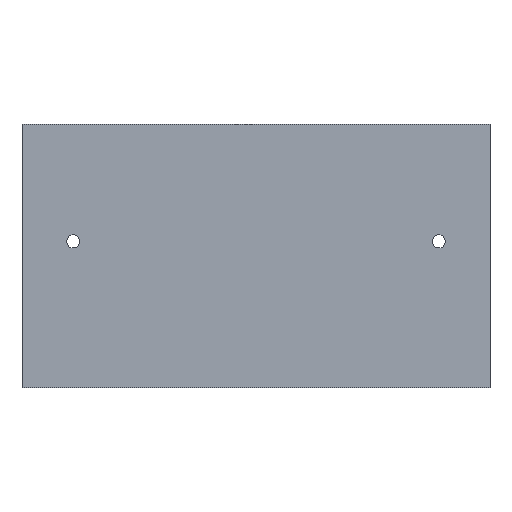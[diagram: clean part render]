
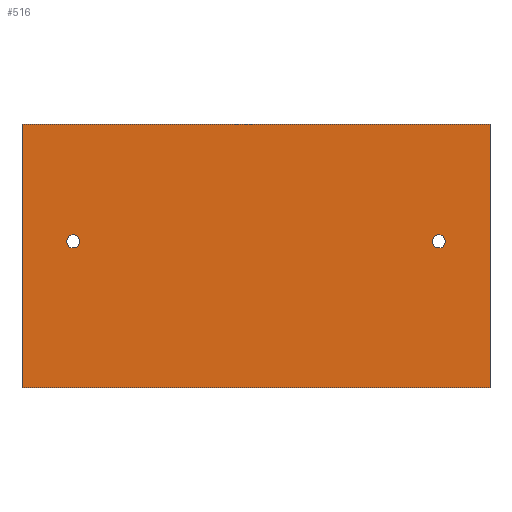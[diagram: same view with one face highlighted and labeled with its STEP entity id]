
A CAD part, top view. The second image highlights one B-rep face of the part: STEP entity #516.
In plain terms, the highlighted planar face has unit normal (0, 0, 1).
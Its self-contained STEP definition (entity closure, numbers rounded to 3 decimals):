
#24 = VERTEX_POINT('',#25);
#25 = CARTESIAN_POINT('',(320.,-180.,35.));
#32 = PLANE('',#33);
#33 = AXIS2_PLACEMENT_3D('',#34,#35,#36);
#34 = CARTESIAN_POINT('',(320.,-180.,0.));
#35 = DIRECTION('',(-0.,1.,-0.));
#36 = DIRECTION('',(1.,0.,0.));
#44 = PLANE('',#45);
#45 = AXIS2_PLACEMENT_3D('',#46,#47,#48);
#46 = CARTESIAN_POINT('',(320.,180.,0.));
#47 = DIRECTION('',(-1.,-0.,-0.));
#48 = DIRECTION('',(0.,1.,0.));
#56 = EDGE_CURVE('',#24,#57,#59,.T.);
#57 = VERTEX_POINT('',#58);
#58 = CARTESIAN_POINT('',(-320.,-180.,35.));
#59 = SURFACE_CURVE('',#60,(#64,#71),.PCURVE_S1.);
#60 = LINE('',#61,#62);
#61 = CARTESIAN_POINT('',(320.,-180.,35.));
#62 = VECTOR('',#63,1.);
#63 = DIRECTION('',(-1.,-0.,-0.));
#64 = PCURVE('',#32,#65);
#65 = DEFINITIONAL_REPRESENTATION('',(#66),#70);
#66 = LINE('',#67,#68);
#67 = CARTESIAN_POINT('',(-0.,-35.));
#68 = VECTOR('',#69,1.);
#69 = DIRECTION('',(-1.,0.));
#70 = ( GEOMETRIC_REPRESENTATION_CONTEXT(2) 
PARAMETRIC_REPRESENTATION_CONTEXT() REPRESENTATION_CONTEXT('2D SPACE',''
  ) );
#71 = PCURVE('',#72,#77);
#72 = PLANE('',#73);
#73 = AXIS2_PLACEMENT_3D('',#74,#75,#76);
#74 = CARTESIAN_POINT('',(0.,0.,35.));
#75 = DIRECTION('',(-0.,-0.,1.));
#76 = DIRECTION('',(1.,0.,0.));
#77 = DEFINITIONAL_REPRESENTATION('',(#78),#82);
#78 = LINE('',#79,#80);
#79 = CARTESIAN_POINT('',(320.,-180.));
#80 = VECTOR('',#81,1.);
#81 = DIRECTION('',(-1.,0.));
#82 = ( GEOMETRIC_REPRESENTATION_CONTEXT(2) 
PARAMETRIC_REPRESENTATION_CONTEXT() REPRESENTATION_CONTEXT('2D SPACE',''
  ) );
#100 = PLANE('',#101);
#101 = AXIS2_PLACEMENT_3D('',#102,#103,#104);
#102 = CARTESIAN_POINT('',(-320.,-180.,0.));
#103 = DIRECTION('',(1.,-0.,-0.));
#104 = DIRECTION('',(0.,-1.,0.));
#142 = EDGE_CURVE('',#57,#143,#145,.T.);
#143 = VERTEX_POINT('',#144);
#144 = CARTESIAN_POINT('',(-320.,180.,35.));
#145 = SURFACE_CURVE('',#146,(#150,#157),.PCURVE_S1.);
#146 = LINE('',#147,#148);
#147 = CARTESIAN_POINT('',(-320.,-180.,35.));
#148 = VECTOR('',#149,1.);
#149 = DIRECTION('',(-0.,1.,-0.));
#150 = PCURVE('',#100,#151);
#151 = DEFINITIONAL_REPRESENTATION('',(#152),#156);
#152 = LINE('',#153,#154);
#153 = CARTESIAN_POINT('',(-0.,-35.));
#154 = VECTOR('',#155,1.);
#155 = DIRECTION('',(-1.,0.));
#156 = ( GEOMETRIC_REPRESENTATION_CONTEXT(2) 
PARAMETRIC_REPRESENTATION_CONTEXT() REPRESENTATION_CONTEXT('2D SPACE',''
  ) );
#157 = PCURVE('',#72,#158);
#158 = DEFINITIONAL_REPRESENTATION('',(#159),#163);
#159 = LINE('',#160,#161);
#160 = CARTESIAN_POINT('',(-320.,-180.));
#161 = VECTOR('',#162,1.);
#162 = DIRECTION('',(-0.,1.));
#163 = ( GEOMETRIC_REPRESENTATION_CONTEXT(2) 
PARAMETRIC_REPRESENTATION_CONTEXT() REPRESENTATION_CONTEXT('2D SPACE',''
  ) );
#181 = PLANE('',#182);
#182 = AXIS2_PLACEMENT_3D('',#183,#184,#185);
#183 = CARTESIAN_POINT('',(-320.,180.,0.));
#184 = DIRECTION('',(-0.,-1.,-0.));
#185 = DIRECTION('',(-1.,0.,0.));
#218 = EDGE_CURVE('',#143,#219,#221,.T.);
#219 = VERTEX_POINT('',#220);
#220 = CARTESIAN_POINT('',(320.,180.,35.));
#221 = SURFACE_CURVE('',#222,(#226,#233),.PCURVE_S1.);
#222 = LINE('',#223,#224);
#223 = CARTESIAN_POINT('',(-320.,180.,35.));
#224 = VECTOR('',#225,1.);
#225 = DIRECTION('',(1.,-0.,-0.));
#226 = PCURVE('',#181,#227);
#227 = DEFINITIONAL_REPRESENTATION('',(#228),#232);
#228 = LINE('',#229,#230);
#229 = CARTESIAN_POINT('',(-0.,-35.));
#230 = VECTOR('',#231,1.);
#231 = DIRECTION('',(-1.,0.));
#232 = ( GEOMETRIC_REPRESENTATION_CONTEXT(2) 
PARAMETRIC_REPRESENTATION_CONTEXT() REPRESENTATION_CONTEXT('2D SPACE',''
  ) );
#233 = PCURVE('',#72,#234);
#234 = DEFINITIONAL_REPRESENTATION('',(#235),#239);
#235 = LINE('',#236,#237);
#236 = CARTESIAN_POINT('',(-320.,180.));
#237 = VECTOR('',#238,1.);
#238 = DIRECTION('',(1.,-0.));
#239 = ( GEOMETRIC_REPRESENTATION_CONTEXT(2) 
PARAMETRIC_REPRESENTATION_CONTEXT() REPRESENTATION_CONTEXT('2D SPACE',''
  ) );
#289 = EDGE_CURVE('',#219,#24,#290,.T.);
#290 = SURFACE_CURVE('',#291,(#295,#302),.PCURVE_S1.);
#291 = LINE('',#292,#293);
#292 = CARTESIAN_POINT('',(320.,180.,35.));
#293 = VECTOR('',#294,1.);
#294 = DIRECTION('',(-0.,-1.,-0.));
#295 = PCURVE('',#44,#296);
#296 = DEFINITIONAL_REPRESENTATION('',(#297),#301);
#297 = LINE('',#298,#299);
#298 = CARTESIAN_POINT('',(-0.,-35.));
#299 = VECTOR('',#300,1.);
#300 = DIRECTION('',(-1.,0.));
#301 = ( GEOMETRIC_REPRESENTATION_CONTEXT(2) 
PARAMETRIC_REPRESENTATION_CONTEXT() REPRESENTATION_CONTEXT('2D SPACE',''
  ) );
#302 = PCURVE('',#72,#303);
#303 = DEFINITIONAL_REPRESENTATION('',(#304),#308);
#304 = LINE('',#305,#306);
#305 = CARTESIAN_POINT('',(320.,180.));
#306 = VECTOR('',#307,1.);
#307 = DIRECTION('',(-0.,-1.));
#308 = ( GEOMETRIC_REPRESENTATION_CONTEXT(2) 
PARAMETRIC_REPRESENTATION_CONTEXT() REPRESENTATION_CONTEXT('2D SPACE',''
  ) );
#338 = VERTEX_POINT('',#339);
#339 = CARTESIAN_POINT('',(241.,20.,35.));
#346 = CYLINDRICAL_SURFACE('',#347,9.);
#347 = AXIS2_PLACEMENT_3D('',#348,#349,#350);
#348 = CARTESIAN_POINT('',(250.,20.,0.));
#349 = DIRECTION('',(0.,-0.,-1.));
#350 = DIRECTION('',(-1.,-0.,-0.));
#365 = EDGE_CURVE('',#338,#338,#366,.T.);
#366 = SURFACE_CURVE('',#367,(#372,#379),.PCURVE_S1.);
#367 = CIRCLE('',#368,9.);
#368 = AXIS2_PLACEMENT_3D('',#369,#370,#371);
#369 = CARTESIAN_POINT('',(250.,20.,35.));
#370 = DIRECTION('',(0.,0.,-1.));
#371 = DIRECTION('',(-1.,-0.,-0.));
#372 = PCURVE('',#346,#373);
#373 = DEFINITIONAL_REPRESENTATION('',(#374),#378);
#374 = LINE('',#375,#376);
#375 = CARTESIAN_POINT('',(0.,-35.));
#376 = VECTOR('',#377,1.);
#377 = DIRECTION('',(1.,0.));
#378 = ( GEOMETRIC_REPRESENTATION_CONTEXT(2) 
PARAMETRIC_REPRESENTATION_CONTEXT() REPRESENTATION_CONTEXT('2D SPACE',''
  ) );
#379 = PCURVE('',#72,#380);
#380 = DEFINITIONAL_REPRESENTATION('',(#381),#389);
#381 = ( BOUNDED_CURVE() B_SPLINE_CURVE(2,(#382,#383,#384,#385,#386,#387
,#388),.UNSPECIFIED.,.T.,.F.) B_SPLINE_CURVE_WITH_KNOTS((1,2,2,2,2,1),(
    -2.094,0.,2.094,4.189,6.283,
8.378),.UNSPECIFIED.) CURVE() GEOMETRIC_REPRESENTATION_ITEM() 
RATIONAL_B_SPLINE_CURVE((1.,0.5,1.,0.5,1.,0.5,1.)) REPRESENTATION_ITEM(
  '') );
#382 = CARTESIAN_POINT('',(241.,20.));
#383 = CARTESIAN_POINT('',(241.,35.588));
#384 = CARTESIAN_POINT('',(254.5,27.794));
#385 = CARTESIAN_POINT('',(268.,20.));
#386 = CARTESIAN_POINT('',(254.5,12.206));
#387 = CARTESIAN_POINT('',(241.,4.412));
#388 = CARTESIAN_POINT('',(241.,20.));
#389 = ( GEOMETRIC_REPRESENTATION_CONTEXT(2) 
PARAMETRIC_REPRESENTATION_CONTEXT() REPRESENTATION_CONTEXT('2D SPACE',''
  ) );
#424 = VERTEX_POINT('',#425);
#425 = CARTESIAN_POINT('',(-259.,20.,35.));
#432 = CYLINDRICAL_SURFACE('',#433,9.);
#433 = AXIS2_PLACEMENT_3D('',#434,#435,#436);
#434 = CARTESIAN_POINT('',(-250.,20.,0.));
#435 = DIRECTION('',(0.,-0.,-1.));
#436 = DIRECTION('',(-1.,-0.,-0.));
#451 = EDGE_CURVE('',#424,#424,#452,.T.);
#452 = SURFACE_CURVE('',#453,(#458,#465),.PCURVE_S1.);
#453 = CIRCLE('',#454,9.);
#454 = AXIS2_PLACEMENT_3D('',#455,#456,#457);
#455 = CARTESIAN_POINT('',(-250.,20.,35.));
#456 = DIRECTION('',(0.,0.,-1.));
#457 = DIRECTION('',(-1.,-0.,-0.));
#458 = PCURVE('',#432,#459);
#459 = DEFINITIONAL_REPRESENTATION('',(#460),#464);
#460 = LINE('',#461,#462);
#461 = CARTESIAN_POINT('',(0.,-35.));
#462 = VECTOR('',#463,1.);
#463 = DIRECTION('',(1.,0.));
#464 = ( GEOMETRIC_REPRESENTATION_CONTEXT(2) 
PARAMETRIC_REPRESENTATION_CONTEXT() REPRESENTATION_CONTEXT('2D SPACE',''
  ) );
#465 = PCURVE('',#72,#466);
#466 = DEFINITIONAL_REPRESENTATION('',(#467),#475);
#467 = ( BOUNDED_CURVE() B_SPLINE_CURVE(2,(#468,#469,#470,#471,#472,#473
,#474),.UNSPECIFIED.,.T.,.F.) B_SPLINE_CURVE_WITH_KNOTS((1,2,2,2,2,1),(
    -2.094,0.,2.094,4.189,6.283,
8.378),.UNSPECIFIED.) CURVE() GEOMETRIC_REPRESENTATION_ITEM() 
RATIONAL_B_SPLINE_CURVE((1.,0.5,1.,0.5,1.,0.5,1.)) REPRESENTATION_ITEM(
  '') );
#468 = CARTESIAN_POINT('',(-259.,20.));
#469 = CARTESIAN_POINT('',(-259.,35.588));
#470 = CARTESIAN_POINT('',(-245.5,27.794));
#471 = CARTESIAN_POINT('',(-232.,20.));
#472 = CARTESIAN_POINT('',(-245.5,12.206));
#473 = CARTESIAN_POINT('',(-259.,4.412));
#474 = CARTESIAN_POINT('',(-259.,20.));
#475 = ( GEOMETRIC_REPRESENTATION_CONTEXT(2) 
PARAMETRIC_REPRESENTATION_CONTEXT() REPRESENTATION_CONTEXT('2D SPACE',''
  ) );
#516 = ADVANCED_FACE('',(#517,#523,#526),#72,.T.);
#517 = FACE_BOUND('',#518,.F.);
#518 = EDGE_LOOP('',(#519,#520,#521,#522));
#519 = ORIENTED_EDGE('',*,*,#56,.T.);
#520 = ORIENTED_EDGE('',*,*,#142,.T.);
#521 = ORIENTED_EDGE('',*,*,#218,.T.);
#522 = ORIENTED_EDGE('',*,*,#289,.T.);
#523 = FACE_BOUND('',#524,.T.);
#524 = EDGE_LOOP('',(#525));
#525 = ORIENTED_EDGE('',*,*,#365,.T.);
#526 = FACE_BOUND('',#527,.T.);
#527 = EDGE_LOOP('',(#528));
#528 = ORIENTED_EDGE('',*,*,#451,.T.);
